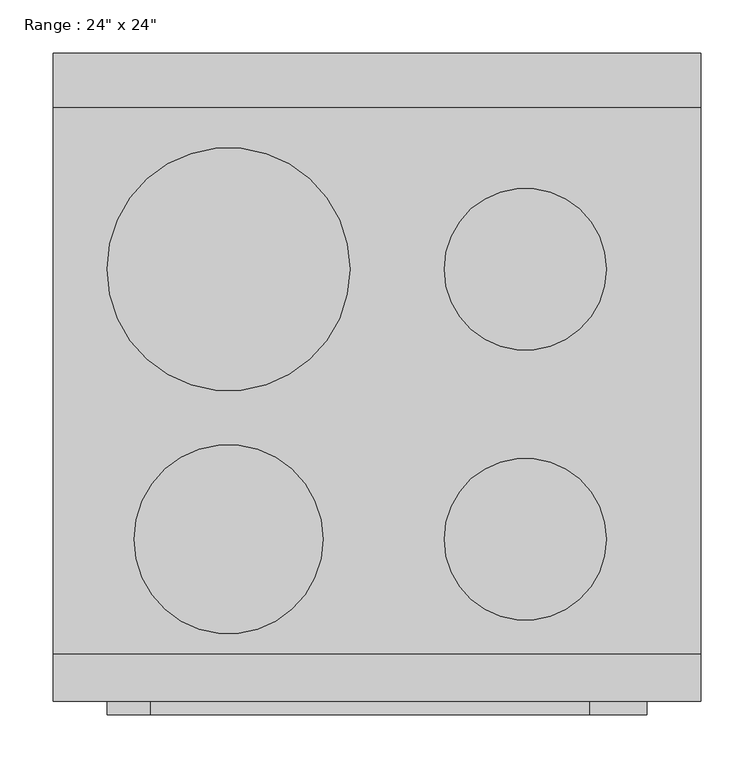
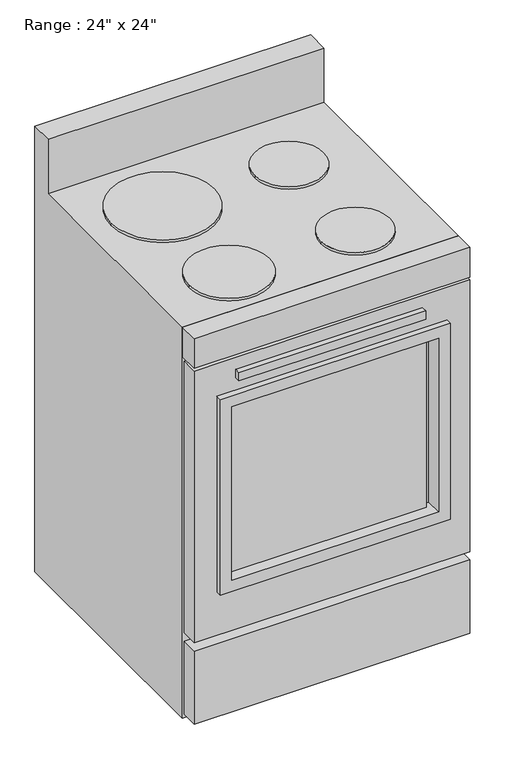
"""IFC4 building model written with IfcOpenShell, lengths in millimetres: proxy geometry."""

from ifc_helpers import new_model, si_unit, point, frame, frame_2d, origin, place, context, project, spatial, polyline, circle_curve, trimmed, segment, composite_curve, outline, extrude, faceted_brep, source, transform, mapped, element, save


def proxy_ce4ccb0f(model_context):
    return source(origin(), model_context, "Body", "SolidModel", [
        faceted_brep([(609.6, 609.6, 0.0), (0.0, 609.6, 0.0), (0.0, 609.6, 1041.4), (609.6, 609.6, 1041.4), (584.2, 609.6, 889.2220355), (25.4, 609.6, 889.2220355), (25.4, 609.6, 254.0), (584.2, 609.6, 254.0), (609.6, 44.45, 914.4), (0.0, 44.45, 914.4), (0.0, 44.45, 0.0), (609.6, 44.45, 0.0), (584.2, 44.45, 889.2220355), (584.2, 44.45, 254.0), (25.4, 44.45, 254.0), (25.4, 44.45, 889.2220355), (609.6, 558.8, 1041.4), (609.6, 558.8, 914.4), (0.0, 558.8, 914.4), (0.0, 558.8, 1041.4)], [[[0, 1, 2, 3], [4, 5, 6, 7]], [[8, 9, 10, 11], [12, 13, 14, 15]], [[0, 3, 16, 17, 8, 11]], [[1, 0, 11, 10]], [[2, 1, 10, 9, 18, 19]], [[9, 8, 17, 18]], [[5, 4, 12, 15]], [[6, 5, 15, 14]], [[7, 6, 14, 13]], [[4, 7, 13, 12]], [[16, 3, 2, 19]], [[17, 16, 19, 18]]]),
        extrude(outline(polyline([(504.825, -12.7), (91.687309, -12.7), (91.687309, 0.0), (504.825, 0.0), (504.825, -12.7)])), frame((0.0, 0.0, 791.2768639), z_axis=(0.0, 0.0, 1.0), x_axis=(1.0, 0.0, 0.0)), (0.0, 0.0, 1.0), 19.05),
        extrude(outline(polyline([(520.7, 12.7), (76.2, 12.7), (76.2, 19.05), (520.7, 19.05), (520.7, 12.7)])), frame((0.0, 0.0, 330.2), z_axis=(0.0, 0.0, 1.0), x_axis=(1.0, 0.0, 0.0)), (0.0, 0.0, 1.0), 406.4),
        extrude(outline(polyline([(609.6, 0.0), (0.0, 0.0), (0.0, 44.45), (609.6, 44.45), (609.6, 0.0)])), frame((0.0, 0.0, 844.7720355), z_axis=(0.0, 0.0, 1.0), x_axis=(1.0, 0.0, 0.0)), (0.0, 0.0, 1.0), 69.6279645),
        extrude(outline(polyline([(762.0, 558.8), (762.0, 50.8), (304.8, 50.8), (304.8, 558.8), (762.0, 558.8)]), holes=[polyline([(736.6, 533.4), (330.2, 533.4), (330.2, 76.2), (736.6, 76.2), (736.6, 533.4)])]), frame((0.0, -12.7, 0.0), z_axis=(0.0, 1.0, 0.0), x_axis=(0.0, 0.0, 1.0)), (0.0, 0.0, 1.0), 38.1),
        extrude(outline(composite_curve([segment(trimmed(circle_curve(frame_2d((165.1, 406.4)), 114.3), [point((50.8, 406.4))], [point((279.4, 406.4))], False, "CARTESIAN"), True, "CONTINUOUS"), segment(trimmed(circle_curve(frame_2d((165.1, 406.4)), 114.3), [point((279.4, 406.4))], [point((50.8, 406.4))], False, "CARTESIAN"), True, "CONTINUOUS")], self_intersect=False)), frame((0.0, 0.0, 914.4), z_axis=(0.0, 0.0, 1.0), x_axis=(1.0, 0.0, 0.0)), (0.0, 0.0, 1.0), 6.35),
        extrude(outline(composite_curve([segment(trimmed(circle_curve(frame_2d((444.5, 406.4)), 76.2), [point((368.3, 406.4))], [point((520.7, 406.4))], False, "CARTESIAN"), True, "CONTINUOUS"), segment(trimmed(circle_curve(frame_2d((444.5, 406.4)), 76.2), [point((520.7, 406.4))], [point((368.3, 406.4))], False, "CARTESIAN"), True, "CONTINUOUS")], self_intersect=False)), frame((0.0, 0.0, 914.4), z_axis=(0.0, 0.0, 1.0), x_axis=(1.0, 0.0, 0.0)), (0.0, 0.0, 1.0), 6.35),
        extrude(outline(composite_curve([segment(trimmed(circle_curve(frame_2d((444.5, 152.4)), 76.2), [point((368.3, 152.4))], [point((520.7, 152.4))], False, "CARTESIAN"), True, "CONTINUOUS"), segment(trimmed(circle_curve(frame_2d((444.5, 152.4)), 76.2), [point((520.7, 152.4))], [point((368.3, 152.4))], False, "CARTESIAN"), True, "CONTINUOUS")], self_intersect=False)), frame((0.0, 0.0, 914.4), z_axis=(0.0, 0.0, 1.0), x_axis=(1.0, 0.0, 0.0)), (0.0, 0.0, 1.0), 6.35),
        extrude(outline(composite_curve([segment(trimmed(circle_curve(frame_2d((165.1, 152.4)), 88.9), [point((76.2, 152.4))], [point((254.0, 152.4))], False, "CARTESIAN"), True, "CONTINUOUS"), segment(trimmed(circle_curve(frame_2d((165.1, 152.4)), 88.9), [point((254.0, 152.4))], [point((76.2, 152.4))], False, "CARTESIAN"), True, "CONTINUOUS")], self_intersect=False)), frame((0.0, 0.0, 914.4), z_axis=(0.0, 0.0, 1.0), x_axis=(1.0, 0.0, 0.0)), (0.0, 0.0, 1.0), 6.35),
        extrude(outline(polyline([(25.4, 609.6), (584.2, 609.6), (584.2, 584.2), (25.4, 584.2), (25.4, 609.6)])), frame((0.0, 0.0, 254.0), z_axis=(0.0, 0.0, 1.0), x_axis=(1.0, 0.0, 0.0)), (0.0, 0.0, 1.0), 635.2220355),
        extrude(outline(polyline([(838.4220355, 609.6), (838.4220355, 0.0), (203.2, 0.0), (203.2, 609.6), (838.4220355, 609.6)]), holes=[polyline([(762.0, 558.8), (304.8, 558.8), (304.8, 50.8), (762.0, 50.8), (762.0, 558.8)])]), frame((0.0, 0.0, 0.0), z_axis=(0.0, 1.0, 0.0), x_axis=(0.0, 0.0, 1.0)), (0.0, 0.0, 1.0), 38.1),
        extrude(outline(polyline([(609.6, 0.0), (0.0, 0.0), (0.0, 38.1), (609.6, 38.1), (609.6, 0.0)])), frame((0.0, 0.0, 12.7), z_axis=(0.0, 0.0, 1.0), x_axis=(1.0, 0.0, 0.0)), (0.0, 0.0, 1.0), 171.45),
    ])


if __name__ == "__main__":
    model = new_model("IFC4")
    model_context = context("Model", 3, world=origin())
    ifc_project = project(units=[si_unit("LENGTHUNIT", "METRE", prefix="MILLI")], contexts=[model_context])
    site = spatial("IfcSite", under=ifc_project)
    building = spatial("IfcBuilding", under=site)
    placement = place(None, origin())
    proxy_shape = proxy_ce4ccb0f(model_context)
    element("IfcBuildingElementProxy", 1, Name="Range : 24\" x 24\"", ObjectType="Range : 24\" x 24\"", at=placement, inside=building, context=model_context, shape_type="MappedRepresentation", body=[
        mapped(proxy_shape, transform((0.0, 0.0, 0.0), x_axis=(1.0, 0.0, 0.0), y_axis=(0.0, 1.0, 0.0), z_axis=(0.0, 0.0, 1.0))),
    ])
    save(model, "model.ifc")
